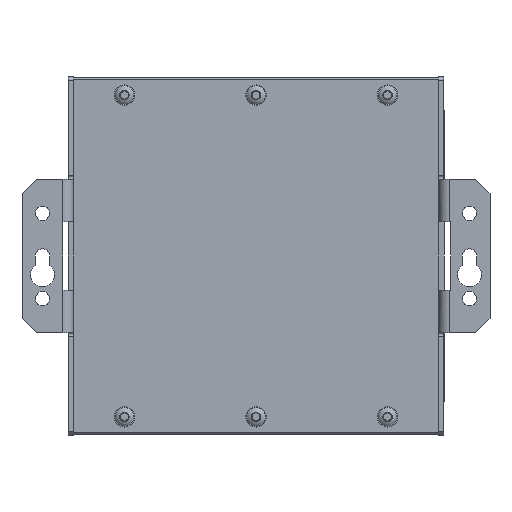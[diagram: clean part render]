
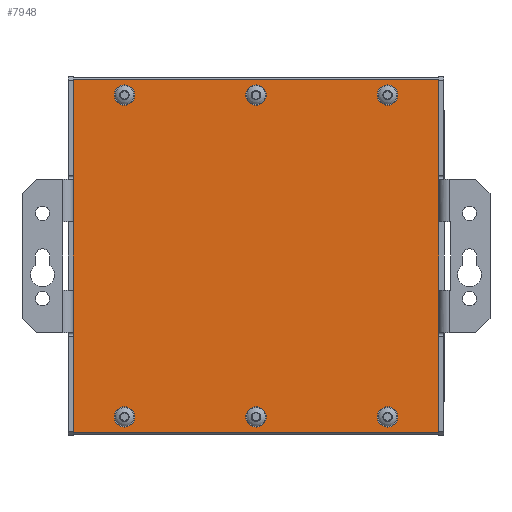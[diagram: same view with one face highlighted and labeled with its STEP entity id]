
A CAD part, front view. The second image highlights one B-rep face of the part: STEP entity #7948.
In plain terms, the highlighted planar face has unit normal (0, -1, 0).
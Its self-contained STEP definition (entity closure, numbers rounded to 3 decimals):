
#2599=CARTESIAN_POINT('',(-35.5,-9.45,47.1));
#2600=VERTEX_POINT('',#2599);
#2609=CARTESIAN_POINT('',(-38.5,-9.45,44.1));
#2610=VERTEX_POINT('',#2609);
#2611=CARTESIAN_POINT('',(-38.5,-9.45,47.1));
#2612=DIRECTION('',(0.,-1.,0.));
#2613=DIRECTION('',(0.,0.,-1.));
#2614=AXIS2_PLACEMENT_3D('',#2611,#2612,#2613);
#2615=CIRCLE('',#2614,3.);
#2616=EDGE_CURVE('',#2600,#2610,#2615,.T.);
#2618=CARTESIAN_POINT('',(-38.5,-9.45,47.1));
#2619=DIRECTION('',(0.,-1.,0.));
#2620=DIRECTION('',(0.,0.,-1.));
#2621=AXIS2_PLACEMENT_3D('',#2618,#2619,#2620);
#2622=CIRCLE('',#2621,3.);
#2623=EDGE_CURVE('',#2610,#2600,#2622,.T.);
#2651=CARTESIAN_POINT('',(3.,-9.45,47.1));
#2652=VERTEX_POINT('',#2651);
#2661=CARTESIAN_POINT('',(-0.,-9.45,44.1));
#2662=VERTEX_POINT('',#2661);
#2663=CARTESIAN_POINT('',(0.,-9.45,47.1));
#2664=DIRECTION('',(0.,-1.,0.));
#2665=DIRECTION('',(0.,0.,-1.));
#2666=AXIS2_PLACEMENT_3D('',#2663,#2664,#2665);
#2667=CIRCLE('',#2666,3.);
#2668=EDGE_CURVE('',#2652,#2662,#2667,.T.);
#2670=CARTESIAN_POINT('',(0.,-9.45,47.1));
#2671=DIRECTION('',(0.,-1.,0.));
#2672=DIRECTION('',(0.,0.,-1.));
#2673=AXIS2_PLACEMENT_3D('',#2670,#2671,#2672);
#2674=CIRCLE('',#2673,3.);
#2675=EDGE_CURVE('',#2662,#2652,#2674,.T.);
#2703=CARTESIAN_POINT('',(41.5,-9.45,47.1));
#2704=VERTEX_POINT('',#2703);
#2713=CARTESIAN_POINT('',(38.5,-9.45,44.1));
#2714=VERTEX_POINT('',#2713);
#2715=CARTESIAN_POINT('',(38.5,-9.45,47.1));
#2716=DIRECTION('',(0.,-1.,0.));
#2717=DIRECTION('',(0.,0.,-1.));
#2718=AXIS2_PLACEMENT_3D('',#2715,#2716,#2717);
#2719=CIRCLE('',#2718,3.);
#2720=EDGE_CURVE('',#2704,#2714,#2719,.T.);
#2722=CARTESIAN_POINT('',(38.5,-9.45,47.1));
#2723=DIRECTION('',(0.,-1.,0.));
#2724=DIRECTION('',(0.,0.,-1.));
#2725=AXIS2_PLACEMENT_3D('',#2722,#2723,#2724);
#2726=CIRCLE('',#2725,3.);
#2727=EDGE_CURVE('',#2714,#2704,#2726,.T.);
#2755=CARTESIAN_POINT('',(3.,-9.45,-47.1));
#2756=VERTEX_POINT('',#2755);
#2765=CARTESIAN_POINT('',(-0.,-9.45,-50.1));
#2766=VERTEX_POINT('',#2765);
#2767=CARTESIAN_POINT('',(0.,-9.45,-47.1));
#2768=DIRECTION('',(0.,-1.,0.));
#2769=DIRECTION('',(0.,0.,-1.));
#2770=AXIS2_PLACEMENT_3D('',#2767,#2768,#2769);
#2771=CIRCLE('',#2770,3.);
#2772=EDGE_CURVE('',#2756,#2766,#2771,.T.);
#2774=CARTESIAN_POINT('',(0.,-9.45,-47.1));
#2775=DIRECTION('',(0.,-1.,0.));
#2776=DIRECTION('',(0.,0.,-1.));
#2777=AXIS2_PLACEMENT_3D('',#2774,#2775,#2776);
#2778=CIRCLE('',#2777,3.);
#2779=EDGE_CURVE('',#2766,#2756,#2778,.T.);
#2807=CARTESIAN_POINT('',(-35.5,-9.45,-47.1));
#2808=VERTEX_POINT('',#2807);
#2817=CARTESIAN_POINT('',(-38.5,-9.45,-50.1));
#2818=VERTEX_POINT('',#2817);
#2819=CARTESIAN_POINT('',(-38.5,-9.45,-47.1));
#2820=DIRECTION('',(0.,-1.,0.));
#2821=DIRECTION('',(0.,0.,-1.));
#2822=AXIS2_PLACEMENT_3D('',#2819,#2820,#2821);
#2823=CIRCLE('',#2822,3.);
#2824=EDGE_CURVE('',#2808,#2818,#2823,.T.);
#2826=CARTESIAN_POINT('',(-38.5,-9.45,-47.1));
#2827=DIRECTION('',(0.,-1.,0.));
#2828=DIRECTION('',(0.,0.,-1.));
#2829=AXIS2_PLACEMENT_3D('',#2826,#2827,#2828);
#2830=CIRCLE('',#2829,3.);
#2831=EDGE_CURVE('',#2818,#2808,#2830,.T.);
#2859=CARTESIAN_POINT('',(41.5,-9.45,-47.1));
#2860=VERTEX_POINT('',#2859);
#2869=CARTESIAN_POINT('',(38.5,-9.45,-50.1));
#2870=VERTEX_POINT('',#2869);
#2871=CARTESIAN_POINT('',(38.5,-9.45,-47.1));
#2872=DIRECTION('',(0.,-1.,0.));
#2873=DIRECTION('',(0.,0.,-1.));
#2874=AXIS2_PLACEMENT_3D('',#2871,#2872,#2873);
#2875=CIRCLE('',#2874,3.);
#2876=EDGE_CURVE('',#2860,#2870,#2875,.T.);
#2878=CARTESIAN_POINT('',(38.5,-9.45,-47.1));
#2879=DIRECTION('',(0.,-1.,0.));
#2880=DIRECTION('',(0.,0.,-1.));
#2881=AXIS2_PLACEMENT_3D('',#2878,#2879,#2880);
#2882=CIRCLE('',#2881,3.);
#2883=EDGE_CURVE('',#2870,#2860,#2882,.T.);
#7664=CARTESIAN_POINT('',(-53.5,-9.45,-23.5));
#7665=VERTEX_POINT('',#7664);
#7672=CARTESIAN_POINT('',(-53.5,-9.45,23.5));
#7673=VERTEX_POINT('',#7672);
#7674=CARTESIAN_POINT('',(-53.5,-9.45,-23.5));
#7675=DIRECTION('',(0.,0.,1.));
#7676=VECTOR('',#7675,47.);
#7677=LINE('',#7674,#7676);
#7678=EDGE_CURVE('',#7665,#7673,#7677,.T.);
#7828=CARTESIAN_POINT('',(53.5,-9.45,23.5));
#7829=VERTEX_POINT('',#7828);
#7836=CARTESIAN_POINT('',(53.5,-9.45,-23.5));
#7837=VERTEX_POINT('',#7836);
#7838=CARTESIAN_POINT('',(53.5,-9.45,-23.5));
#7839=DIRECTION('',(0.,0.,1.));
#7840=VECTOR('',#7839,47.);
#7841=LINE('',#7838,#7840);
#7842=EDGE_CURVE('',#7837,#7829,#7841,.T.);
#7871=CARTESIAN_POINT('',(53.5,-9.45,-52.25));
#7872=DIRECTION('',(0.,-1.,0.));
#7873=DIRECTION('',(0.,0.,-1.));
#7874=AXIS2_PLACEMENT_3D('',#7871,#7872,#7873);
#7875=PLANE('',#7874);
#7876=ORIENTED_EDGE('',*,*,#2720,.F.);
#7877=ORIENTED_EDGE('',*,*,#2727,.F.);
#7878=EDGE_LOOP('',(#7876,#7877));
#7879=FACE_BOUND('',#7878,.T.);
#7880=ORIENTED_EDGE('',*,*,#2876,.F.);
#7881=ORIENTED_EDGE('',*,*,#2883,.F.);
#7882=EDGE_LOOP('',(#7880,#7881));
#7883=FACE_BOUND('',#7882,.T.);
#7884=ORIENTED_EDGE('',*,*,#2824,.F.);
#7885=ORIENTED_EDGE('',*,*,#2831,.F.);
#7886=EDGE_LOOP('',(#7884,#7885));
#7887=FACE_BOUND('',#7886,.T.);
#7888=ORIENTED_EDGE('',*,*,#2668,.F.);
#7889=ORIENTED_EDGE('',*,*,#2675,.F.);
#7890=EDGE_LOOP('',(#7888,#7889));
#7891=FACE_BOUND('',#7890,.T.);
#7892=ORIENTED_EDGE('',*,*,#2772,.F.);
#7893=ORIENTED_EDGE('',*,*,#2779,.F.);
#7894=EDGE_LOOP('',(#7892,#7893));
#7895=FACE_BOUND('',#7894,.T.);
#7896=ORIENTED_EDGE('',*,*,#2616,.F.);
#7897=ORIENTED_EDGE('',*,*,#2623,.F.);
#7898=EDGE_LOOP('',(#7896,#7897));
#7899=FACE_BOUND('',#7898,.T.);
#7900=CARTESIAN_POINT('',(53.5,-9.45,-51.617));
#7901=VERTEX_POINT('',#7900);
#7902=CARTESIAN_POINT('',(53.5,-9.45,-51.617));
#7903=DIRECTION('',(0.,0.,1.));
#7904=VECTOR('',#7903,28.117);
#7905=LINE('',#7902,#7904);
#7906=EDGE_CURVE('',#7901,#7837,#7905,.T.);
#7907=ORIENTED_EDGE('',*,*,#7906,.T.);
#7908=ORIENTED_EDGE('',*,*,#7842,.T.);
#7909=CARTESIAN_POINT('',(53.5,-9.45,51.617));
#7910=VERTEX_POINT('',#7909);
#7911=CARTESIAN_POINT('',(53.5,-9.45,51.617));
#7912=DIRECTION('',(0.,0.,-1.));
#7913=VECTOR('',#7912,28.117);
#7914=LINE('',#7911,#7913);
#7915=EDGE_CURVE('',#7910,#7829,#7914,.T.);
#7916=ORIENTED_EDGE('',*,*,#7915,.F.);
#7917=CARTESIAN_POINT('',(-53.5,-9.45,51.617));
#7918=VERTEX_POINT('',#7917);
#7919=CARTESIAN_POINT('',(53.5,-9.45,51.617));
#7920=DIRECTION('',(-1.,-0.,0.));
#7921=VECTOR('',#7920,107.);
#7922=LINE('',#7919,#7921);
#7923=EDGE_CURVE('',#7910,#7918,#7922,.T.);
#7924=ORIENTED_EDGE('',*,*,#7923,.T.);
#7925=CARTESIAN_POINT('',(-53.5,-9.45,51.617));
#7926=DIRECTION('',(0.,0.,-1.));
#7927=VECTOR('',#7926,28.117);
#7928=LINE('',#7925,#7927);
#7929=EDGE_CURVE('',#7918,#7673,#7928,.T.);
#7930=ORIENTED_EDGE('',*,*,#7929,.T.);
#7931=ORIENTED_EDGE('',*,*,#7678,.F.);
#7932=CARTESIAN_POINT('',(-53.5,-9.45,-51.617));
#7933=VERTEX_POINT('',#7932);
#7934=CARTESIAN_POINT('',(-53.5,-9.45,-51.617));
#7935=DIRECTION('',(0.,0.,1.));
#7936=VECTOR('',#7935,28.117);
#7937=LINE('',#7934,#7936);
#7938=EDGE_CURVE('',#7933,#7665,#7937,.T.);
#7939=ORIENTED_EDGE('',*,*,#7938,.F.);
#7940=CARTESIAN_POINT('',(-53.5,-9.45,-51.617));
#7941=DIRECTION('',(1.,-0.,-0.));
#7942=VECTOR('',#7941,107.);
#7943=LINE('',#7940,#7942);
#7944=EDGE_CURVE('',#7933,#7901,#7943,.T.);
#7945=ORIENTED_EDGE('',*,*,#7944,.T.);
#7946=EDGE_LOOP('',(#7907,#7908,#7916,#7924,#7930,#7931,#7939,#7945));
#7947=FACE_BOUND('',#7946,.T.);
#7948=ADVANCED_FACE('',(#7879,#7883,#7887,#7891,#7895,#7899,#7947),#7875,.T.);
